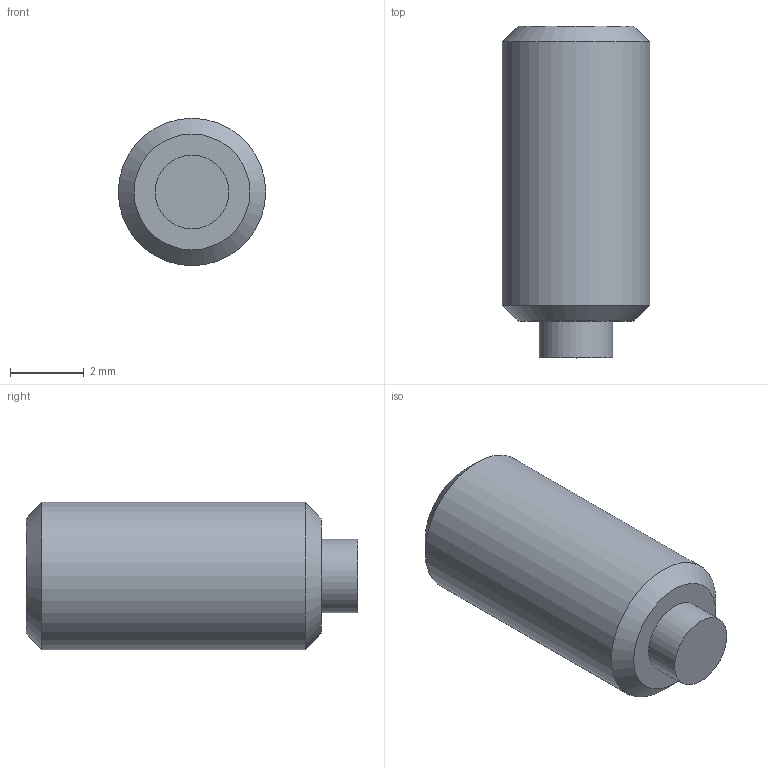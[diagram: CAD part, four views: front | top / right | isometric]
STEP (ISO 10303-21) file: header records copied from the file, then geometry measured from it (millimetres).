
FILE_DESCRIPTION( ( 'STEP AP203' ), '1' );
FILE_NAME( 'C:/Temp/Ganter_Step_05_03_2020/data/3_2/gn913_3/Grub screw GN 913.3-M4-8-KU.stp', '2020-03-13T05:35:33', ( 'License CC BY-ND 4.0' ), ( 'CADENAS' ), ' ', 'PARTsolutions', ' ' );
FILE_SCHEMA( ( 'CONFIG_CONTROL_DESIGN' ) );
Length unit declared in the file: millimetre
Products named in the file (1): _Grub screw GN 913.3-M4-8-KU
Bounding box: 4 x 9 x 4 mm (x, y, z)
Volume: 96.6 mm3; surface area: 138.1 mm2
Topology: 1 solids, 1 shells, 14 faces, 28 edges, 18 vertices
Faces by surface type: plane 10, cylinder 2, cone 2
Full cylindrical faces by diameter (mm): 2 x1, 4 x1
Entity records: 386 total; most frequent: DIRECTION 60, CARTESIAN_POINT 57, ORIENTED_EDGE 48, EDGE_CURVE 24, AXIS2_PLACEMENT_3D 21, EDGE_LOOP 20, VERTEX_POINT 18, LINE 18
